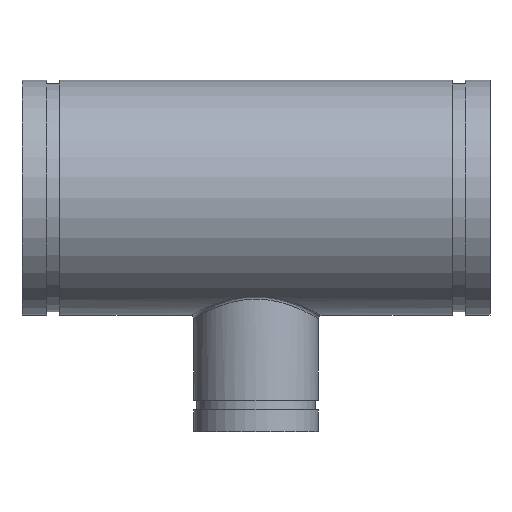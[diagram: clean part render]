
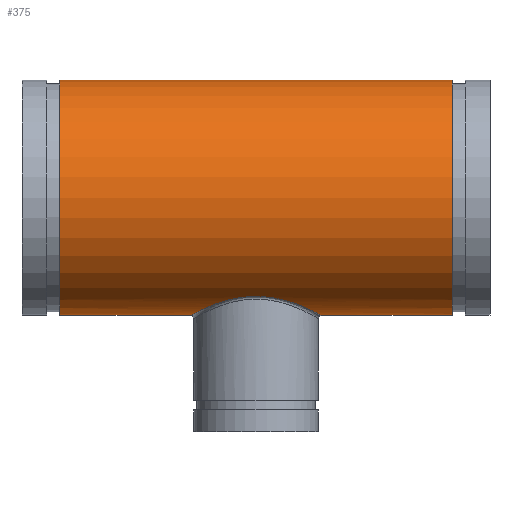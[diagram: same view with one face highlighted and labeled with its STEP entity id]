
A CAD part, top view. The second image highlights one B-rep face of the part: STEP entity #375.
In plain terms, the highlighted cylindrical face has radius 114.935 mm (diameter 229.87 mm), a full revolution.
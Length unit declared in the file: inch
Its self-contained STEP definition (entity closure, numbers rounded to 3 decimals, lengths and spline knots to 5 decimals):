
#54=FACE_BOUND('',#119,.T.);
#65=LINE('',#791,#76);
#76=VECTOR('',#483,4.525);
#87=CYLINDRICAL_SURFACE('',#415,4.525);
#98=FACE_OUTER_BOUND('',#118,.T.);
#118=EDGE_LOOP('',(#266,#267,#268,#269));
#119=EDGE_LOOP('',(#270));
#150=B_SPLINE_CURVE_WITH_KNOTS('',3,(#763,#764,#765,#766,#767,#768,#769,
#770,#771,#772,#773,#774,#775,#776,#777,#778,#779,#780,#781,#782,#783,#784,
#785,#786),.UNSPECIFIED.,.T.,.F.,(4,1,1,1,1,1,1,1,1,1,1,1,1,1,1,1,1,1,1,
1,1,4),(-37.60271,-36.25975,-34.9168,-32.23089,
-30.44029,-28.64968,-26.85908,-25.06847,
-23.27787,-21.48726,-19.69666,-17.90605,
-16.11545,-14.32484,-12.53424,-10.74363,
-8.95303,-7.16242,-5.37182,-2.68591,
-1.34295,0.),.UNSPECIFIED.);
#154=CIRCLE('',#416,4.525);
#155=CIRCLE('',#417,4.525);
#182=VERTEX_POINT('',#731);
#185=VERTEX_POINT('',#788);
#186=VERTEX_POINT('',#790);
#219=EDGE_CURVE('',#182,#182,#150,.T.);
#220=EDGE_CURVE('',#185,#185,#154,.T.);
#221=EDGE_CURVE('',#185,#186,#65,.T.);
#222=EDGE_CURVE('',#186,#186,#155,.T.);
#266=ORIENTED_EDGE('',*,*,#220,.T.);
#267=ORIENTED_EDGE('',*,*,#221,.T.);
#268=ORIENTED_EDGE('',*,*,#222,.T.);
#269=ORIENTED_EDGE('',*,*,#221,.F.);
#270=ORIENTED_EDGE('',*,*,#219,.F.);
#375=ADVANCED_FACE('',(#98,#54),#87,.T.);
#415=AXIS2_PLACEMENT_3D('',#787,#479,#480);
#416=AXIS2_PLACEMENT_3D('',#789,#481,#482);
#417=AXIS2_PLACEMENT_3D('',#792,#484,#485);
#479=DIRECTION('center_axis',(-1.,0.,0.));
#480=DIRECTION('ref_axis',(0.,-1.,0.));
#481=DIRECTION('center_axis',(1.,0.,0.));
#482=DIRECTION('ref_axis',(0.,-1.,0.));
#483=DIRECTION('',(1.,0.,0.));
#484=DIRECTION('center_axis',(-1.,0.,0.));
#485=DIRECTION('ref_axis',(0.,-1.,0.));
#731=CARTESIAN_POINT('',(0.,-3.79976,-2.45712));
#763=CARTESIAN_POINT('Ctrl Pts',(0.,-3.79976,
-2.45712));
#764=CARTESIAN_POINT('Ctrl Pts',(0.19292,-3.79976,-2.45712));
#765=CARTESIAN_POINT('Ctrl Pts',(0.57856,-3.82827,-2.41371));
#766=CARTESIAN_POINT('Ctrl Pts',(1.29572,-3.98091,-2.16391));
#767=CARTESIAN_POINT('Ctrl Pts',(1.93224,-4.23034,-1.66748));
#768=CARTESIAN_POINT('Ctrl Pts',(2.37951,-4.44773,-0.92744));
#769=CARTESIAN_POINT('Ctrl Pts',(2.55749,-4.54248,-0.19149));
#770=CARTESIAN_POINT('Ctrl Pts',(2.49695,-4.50968,0.56823));
#771=CARTESIAN_POINT('Ctrl Pts',(2.21067,-4.36265,1.26049));
#772=CARTESIAN_POINT('Ctrl Pts',(1.74096,-4.15111,1.82775));
#773=CARTESIAN_POINT('Ctrl Pts',(1.12513,-3.93749,2.23997));
#774=CARTESIAN_POINT('Ctrl Pts',(0.39258,-3.79409,2.46636));
#775=CARTESIAN_POINT('Ctrl Pts',(-0.39263,-3.7939,2.46647));
#776=CARTESIAN_POINT('Ctrl Pts',(-1.12508,-3.93755,2.23995));
#777=CARTESIAN_POINT('Ctrl Pts',(-1.74099,-4.15107,1.82775));
#778=CARTESIAN_POINT('Ctrl Pts',(-2.21067,-4.36268,1.26051));
#779=CARTESIAN_POINT('Ctrl Pts',(-2.49693,-4.50966,0.56827));
#780=CARTESIAN_POINT('Ctrl Pts',(-2.5575,-4.54249,-0.19149));
#781=CARTESIAN_POINT('Ctrl Pts',(-2.3795,-4.44773,-0.92744));
#782=CARTESIAN_POINT('Ctrl Pts',(-1.93225,-4.23034,-1.66749));
#783=CARTESIAN_POINT('Ctrl Pts',(-1.2957,-3.9809,-2.16391));
#784=CARTESIAN_POINT('Ctrl Pts',(-0.57856,-3.82827,-2.41371));
#785=CARTESIAN_POINT('Ctrl Pts',(-0.19292,-3.79976,-2.45712));
#786=CARTESIAN_POINT('Ctrl Pts',(0.,-3.79976,
-2.45712));
#787=CARTESIAN_POINT('Origin',(9.,0.,0.));
#788=CARTESIAN_POINT('',(-7.55,4.525,0.));
#789=CARTESIAN_POINT('Origin',(-7.55,0.,0.));
#790=CARTESIAN_POINT('',(7.55,4.525,0.));
#791=CARTESIAN_POINT('',(9.,4.525,0.));
#792=CARTESIAN_POINT('Origin',(7.55,0.,0.));
